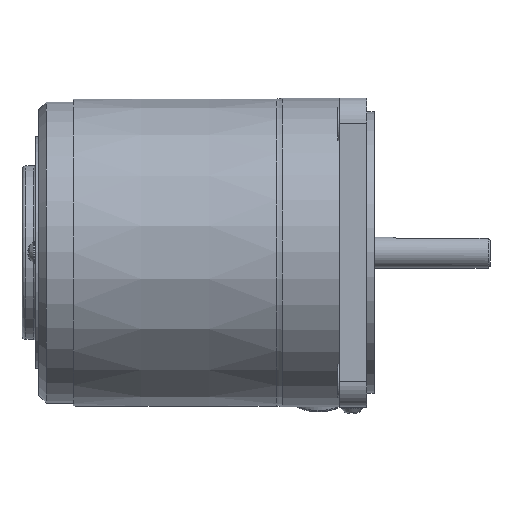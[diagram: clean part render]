
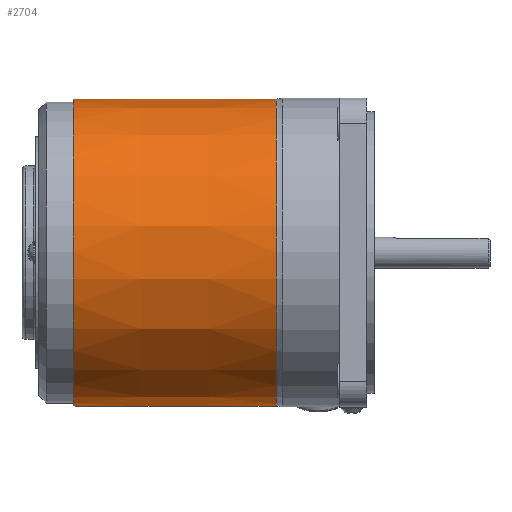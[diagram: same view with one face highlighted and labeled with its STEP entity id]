
A CAD part, top view. The second image highlights one B-rep face of the part: STEP entity #2704.
In plain terms, the highlighted conical face has half-angle 0.073 degrees and reference radius 39.784 mm.
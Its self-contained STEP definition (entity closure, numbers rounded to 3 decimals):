
#13=CONICAL_SURFACE('',#2914,39.784,0.073);
#141=FACE_BOUND('',#536,.T.);
#228=CIRCLE('',#2913,39.817);
#229=CIRCLE('',#2915,39.75);
#353=FACE_OUTER_BOUND('',#535,.T.);
#535=EDGE_LOOP('',(#1918));
#536=EDGE_LOOP('',(#1919));
#1171=VERTEX_POINT('',#4251);
#1172=VERTEX_POINT('',#4254);
#1458=EDGE_CURVE('',#1171,#1171,#228,.T.);
#1459=EDGE_CURVE('',#1172,#1172,#229,.T.);
#1918=ORIENTED_EDGE('',*,*,#1458,.F.);
#1919=ORIENTED_EDGE('',*,*,#1459,.T.);
#2704=ADVANCED_FACE('',(#353,#141),#13,.T.);
#2913=AXIS2_PLACEMENT_3D('',#4252,#3337,#3338);
#2914=AXIS2_PLACEMENT_3D('',#4253,#3339,#3340);
#2915=AXIS2_PLACEMENT_3D('',#4255,#3341,#3342);
#3337=DIRECTION('center_axis',(1.,0.,0.));
#3338=DIRECTION('ref_axis',(0.,1.,0.));
#3339=DIRECTION('center_axis',(1.,0.,0.));
#3340=DIRECTION('ref_axis',(0.,1.,0.));
#3341=DIRECTION('center_axis',(1.,0.,0.));
#3342=DIRECTION('ref_axis',(0.,1.,0.));
#4251=CARTESIAN_POINT('',(61.576,39.817,0.));
#4252=CARTESIAN_POINT('Origin',(61.576,0.,0.));
#4253=CARTESIAN_POINT('Origin',(35.288,0.,0.));
#4254=CARTESIAN_POINT('',(9.,39.75,0.));
#4255=CARTESIAN_POINT('Origin',(9.,0.,0.));
